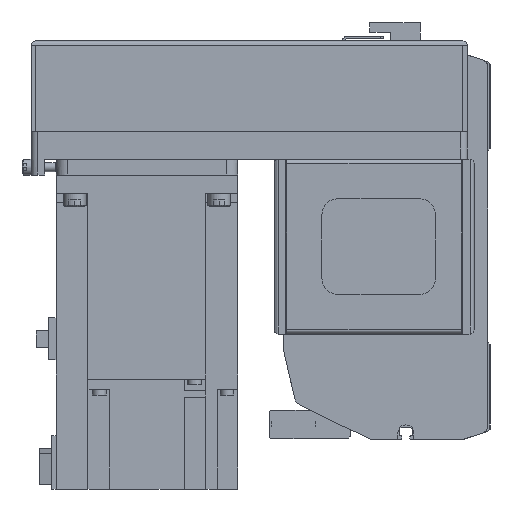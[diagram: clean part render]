
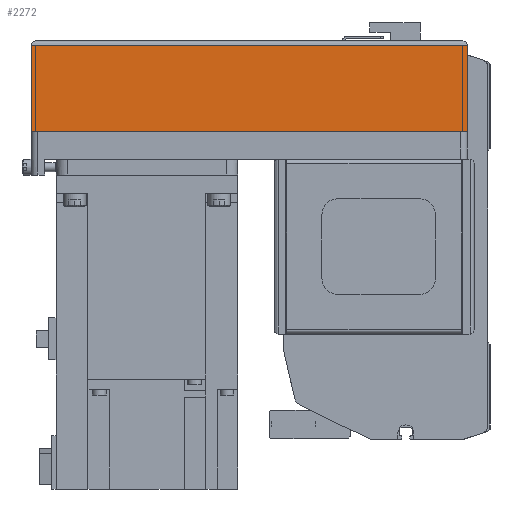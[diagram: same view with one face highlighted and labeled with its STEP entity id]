
A CAD part, left-side view. The second image highlights one B-rep face of the part: STEP entity #2272.
In plain terms, the highlighted planar face has unit normal (-1, 0, 0) as drawn and (0, 1, 0) by its records, which use the part's own axes.
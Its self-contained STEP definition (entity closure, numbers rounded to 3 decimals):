
#2272 = ADVANCED_FACE( '', ( #5074 ), #5075, .T. );
#5074 = FACE_OUTER_BOUND( '', #8382, .T. );
#5075 = PLANE( '', #8383 );
#8382 = EDGE_LOOP( '', ( #14818, #14819, #14820, #14821 ) );
#8383 = AXIS2_PLACEMENT_3D( '', #14822, #14823, #14824 );
#14818 = ORIENTED_EDGE( '', *, *, #19678, .F. );
#14819 = ORIENTED_EDGE( '', *, *, #20207, .F. );
#14820 = ORIENTED_EDGE( '', *, *, #20856, .T. );
#14821 = ORIENTED_EDGE( '', *, *, #19574, .T. );
#14822 = CARTESIAN_POINT( '', ( -192., 40., -50. ) );
#14823 = DIRECTION( '', ( 0., 1., 0. ) );
#14824 = DIRECTION( '', ( 0., 0., 1. ) );
#19574 = EDGE_CURVE( '', #23310, #23634, #23636, .T. );
#19678 = EDGE_CURVE( '', #23815, #23634, #23817, .T. );
#20207 = EDGE_CURVE( '', #24682, #23815, #24685, .T. );
#20856 = EDGE_CURVE( '', #24682, #23310, #25688, .T. );
#23310 = VERTEX_POINT( '', #28898 );
#23634 = VERTEX_POINT( '', #29381 );
#23636 = LINE( '', #29384, #29385 );
#23815 = VERTEX_POINT( '', #29614 );
#23817 = LINE( '', #29617, #29618 );
#24682 = VERTEX_POINT( '', #30875 );
#24685 = LINE( '', #30878, #30879 );
#25688 = LINE( '', #32356, #32357 );
#28898 = CARTESIAN_POINT( '', ( -192., 40., -12.1 ) );
#29381 = CARTESIAN_POINT( '', ( 0., 40., -12.1 ) );
#29384 = CARTESIAN_POINT( '', ( -192., 40., -12.1 ) );
#29385 = VECTOR( '', #36174, 1000. );
#29614 = CARTESIAN_POINT( '', ( 0., 40., -50. ) );
#29617 = CARTESIAN_POINT( '', ( 0., 40., -50. ) );
#29618 = VECTOR( '', #36346, 1000. );
#30875 = CARTESIAN_POINT( '', ( -192., 40., -50. ) );
#30878 = CARTESIAN_POINT( '', ( -192., 40., -50. ) );
#30879 = VECTOR( '', #37032, 1000. );
#32356 = CARTESIAN_POINT( '', ( -192., 40., -50. ) );
#32357 = VECTOR( '', #37829, 1000. );
#36174 = DIRECTION( '', ( 1., 0., 0. ) );
#36346 = DIRECTION( '', ( 0., 0., 1. ) );
#37032 = DIRECTION( '', ( 1., 0., 0. ) );
#37829 = DIRECTION( '', ( 0., 0., 1. ) );
